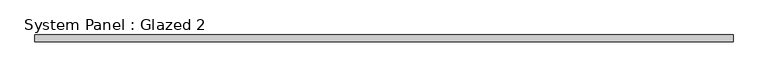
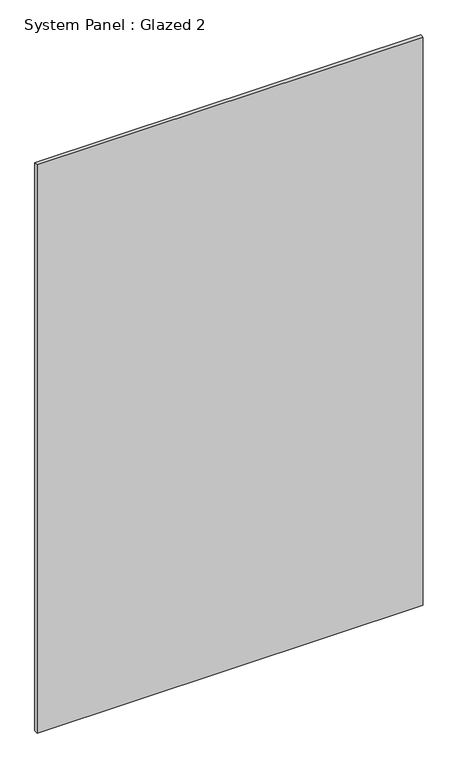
"""IFC4 building model written with IfcOpenShell, lengths in millimetres: plate geometry, System Panel : Glazed 2."""

from ifc_helpers import new_model, si_unit, origin, origin_with_axes, place, context, project, spatial, polyline, outline, extrude, source, transform, mapped, element, save


def system_panel_glazed_2_ff733679(model_context):
    return source(origin(), model_context, "Body", "SweptSolid", [
        extrude(outline(polyline([(670.0, -6.35), (-670.0, -6.35), (-670.0, 6.35), (670.0, 6.35), (670.0, -6.35)])), origin_with_axes(), (0.0, 0.0, 1.0), 2084.1033932),
    ])


if __name__ == "__main__":
    model = new_model("IFC4")
    model_context = context("Model", 3, world=origin())
    ifc_project = project(units=[si_unit("LENGTHUNIT", "METRE", prefix="MILLI")], contexts=[model_context])
    site = spatial("IfcSite", under=ifc_project)
    building = spatial("IfcBuilding", under=site)
    placement = place(None, origin())
    system_panel_glazed_2_shape = system_panel_glazed_2_ff733679(model_context)
    element("IfcPlate", 1, ObjectType="System Panel : Glazed 2", at=placement, inside=building, context=model_context, shape_type="MappedRepresentation", body=[
        mapped(system_panel_glazed_2_shape, transform((0.0, 0.0, 0.0), x_axis=(1.0, 0.0, 0.0), y_axis=(0.0, 1.0, 0.0), z_axis=(0.0, 0.0, 1.0))),
    ])
    save(model, "model.ifc")
